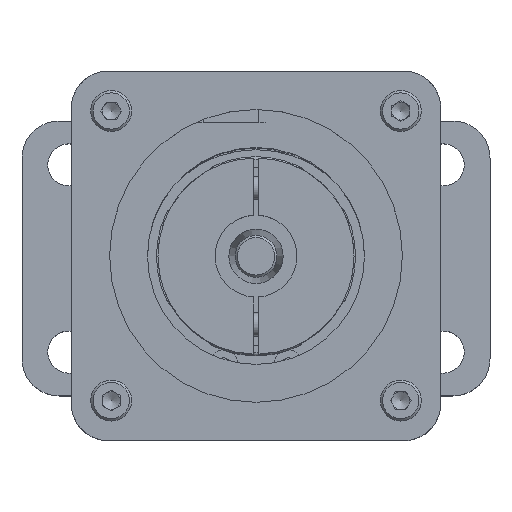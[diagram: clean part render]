
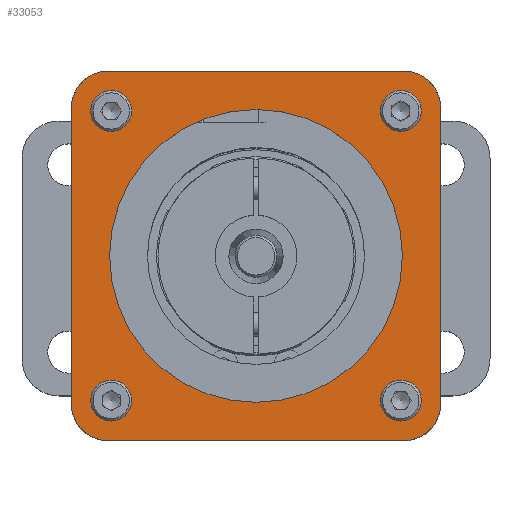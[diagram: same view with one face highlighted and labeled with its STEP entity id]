
A CAD part, top view. The second image highlights one B-rep face of the part: STEP entity #33053.
In plain terms, the highlighted planar face has unit normal (0, 0, 1).
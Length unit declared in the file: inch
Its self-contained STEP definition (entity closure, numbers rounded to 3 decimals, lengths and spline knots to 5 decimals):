
#221 = CARTESIAN_POINT ( 'NONE',  ( -1.2436, -0.9936, 3.7111 ) ) ;
#676 = CARTESIAN_POINT ( 'NONE',  ( 1.05311, 0.97436, 3.7111 ) ) ;
#717 = CARTESIAN_POINT ( 'NONE',  ( -0.97436, 1.05311, 3.7111 ) ) ;
#1033 = CARTESIAN_POINT ( 'NONE',  ( -1.77594, 1.6875, 3.7111 ) ) ;
#1295 = CIRCLE ( 'NONE', #4248, 0.25 ) ;
#1721 = AXIS2_PLACEMENT_3D ( 'NONE', #35176, #24719, #24535 ) ;
#1938 = VERTEX_POINT ( 'NONE', #23605 ) ;
#2078 = EDGE_CURVE ( 'NONE', #7962, #17420, #33291, .T. ) ;
#2107 = EDGE_CURVE ( 'NONE', #34310, #34310, #31661, .T. ) ;
#2317 = VERTEX_POINT ( 'NONE', #35211 ) ;
#2805 = DIRECTION ( 'NONE',  ( -1., 0., 0. ) ) ;
#2841 = DIRECTION ( 'NONE',  ( 1., 0., 0. ) ) ;
#3754 = CARTESIAN_POINT ( 'NONE',  ( -1.05311, -0.97436, 3.7111 ) ) ;
#3872 = CARTESIAN_POINT ( 'NONE',  ( 1.2436, -0.9936, 3.7111 ) ) ;
#3905 = VERTEX_POINT ( 'NONE', #6351 ) ;
#4248 = AXIS2_PLACEMENT_3D ( 'NONE', #34615, #25646, #23082 ) ;
#4623 = AXIS2_PLACEMENT_3D ( 'NONE', #4865, #18648, #16252 ) ;
#4865 = CARTESIAN_POINT ( 'NONE',  ( 0.97436, 0.97436, 3.7111 ) ) ;
#4960 = LINE ( 'NONE', #13962, #6256 ) ;
#5169 = DIRECTION ( 'NONE',  ( 1., 0., 0. ) ) ;
#5666 = VERTEX_POINT ( 'NONE', #221 ) ;
#5870 = AXIS2_PLACEMENT_3D ( 'NONE', #22490, #30380, #33653 ) ;
#5966 = DIRECTION ( 'NONE',  ( 0., 0., 1. ) ) ;
#6174 = AXIS2_PLACEMENT_3D ( 'NONE', #1033, #34449, #32258 ) ;
#6190 = EDGE_LOOP ( 'NONE', ( #26926 ) ) ;
#6256 = VECTOR ( 'NONE', #16358, 39.37008 ) ;
#6351 = CARTESIAN_POINT ( 'NONE',  ( -0.9936, -1.2436, 3.7111 ) ) ;
#6809 = CIRCLE ( 'NONE', #27359, 0.07875 ) ;
#7021 = AXIS2_PLACEMENT_3D ( 'NONE', #17490, #28675, #14749 ) ;
#7055 = AXIS2_PLACEMENT_3D ( 'NONE', #20487, #5966, #2841 ) ;
#7831 = EDGE_LOOP ( 'NONE', ( #20893 ) ) ;
#7962 = VERTEX_POINT ( 'NONE', #35615 ) ;
#8152 = VERTEX_POINT ( 'NONE', #3872 ) ;
#9587 = ORIENTED_EDGE ( 'NONE', *, *, #33231, .F. ) ;
#9852 = VECTOR ( 'NONE', #35494, 39.37008 ) ;
#9858 = DIRECTION ( 'NONE',  ( 0., 1., 0. ) ) ;
#9969 = CARTESIAN_POINT ( 'NONE',  ( 0.98525, 0., 3.7111 ) ) ;
#10395 = ORIENTED_EDGE ( 'NONE', *, *, #27104, .F. ) ;
#10417 = EDGE_CURVE ( 'NONE', #28594, #28594, #23980, .T. ) ;
#10609 = CARTESIAN_POINT ( 'NONE',  ( -0.9936, -0.9936, 3.7111 ) ) ;
#11301 = EDGE_CURVE ( 'NONE', #8152, #35950, #35559, .T. ) ;
#12571 = ORIENTED_EDGE ( 'NONE', *, *, #19632, .T. ) ;
#13204 = CARTESIAN_POINT ( 'NONE',  ( -0.97436, -0.97436, 3.7111 ) ) ;
#13335 = VERTEX_POINT ( 'NONE', #21335 ) ;
#13962 = CARTESIAN_POINT ( 'NONE',  ( -1.2436, 0.9936, 3.7111 ) ) ;
#14749 = DIRECTION ( 'NONE',  ( 1., 0., 0. ) ) ;
#14852 = FACE_OUTER_BOUND ( 'NONE', #18954, .T. ) ;
#14992 = CIRCLE ( 'NONE', #24956, 0.25 ) ;
#15864 = CARTESIAN_POINT ( 'NONE',  ( 0., 0., 3.7111 ) ) ;
#16252 = DIRECTION ( 'NONE',  ( 1., 0., 0. ) ) ;
#16358 = DIRECTION ( 'NONE',  ( 0., -1., 0. ) ) ;
#16439 = CARTESIAN_POINT ( 'NONE',  ( 1.2436, 0.9936, 3.7111 ) ) ;
#17420 = VERTEX_POINT ( 'NONE', #29155 ) ;
#17490 = CARTESIAN_POINT ( 'NONE',  ( -0.9936, 0.9936, 3.7111 ) ) ;
#18208 = CIRCLE ( 'NONE', #7055, 0.25 ) ;
#18648 = DIRECTION ( 'NONE',  ( 0., 0., 1. ) ) ;
#18788 = VECTOR ( 'NONE', #2805, 39.37008 ) ;
#18954 = EDGE_LOOP ( 'NONE', ( #20700, #29648, #28928, #30529, #36252, #12571, #35683, #19259 ) ) ;
#19259 = ORIENTED_EDGE ( 'NONE', *, *, #35720, .T. ) ;
#19632 = EDGE_CURVE ( 'NONE', #1938, #8152, #1295, .T. ) ;
#20028 = EDGE_CURVE ( 'NONE', #32162, #32162, #35351, .T. ) ;
#20487 = CARTESIAN_POINT ( 'NONE',  ( 0.9936, 0.9936, 3.7111 ) ) ;
#20700 = ORIENTED_EDGE ( 'NONE', *, *, #2078, .T. ) ;
#20893 = ORIENTED_EDGE ( 'NONE', *, *, #2107, .F. ) ;
#21095 = FACE_BOUND ( 'NONE', #6190, .T. ) ;
#21335 = CARTESIAN_POINT ( 'NONE',  ( -1.2436, 0.9936, 3.7111 ) ) ;
#21384 = LINE ( 'NONE', #24134, #9852 ) ;
#21927 = DIRECTION ( 'NONE',  ( 0., 0., 1. ) ) ;
#22107 = EDGE_CURVE ( 'NONE', #3905, #1938, #21384, .T. ) ;
#22490 = CARTESIAN_POINT ( 'NONE',  ( -0.97436, 0.97436, 3.7111 ) ) ;
#23082 = DIRECTION ( 'NONE',  ( 1., 0., 0. ) ) ;
#23279 = FACE_BOUND ( 'NONE', #7831, .T. ) ;
#23605 = CARTESIAN_POINT ( 'NONE',  ( 0.9936, -1.2436, 3.7111 ) ) ;
#23829 = FACE_BOUND ( 'NONE', #28240, .T. ) ;
#23980 = CIRCLE ( 'NONE', #4623, 0.07875 ) ;
#24134 = CARTESIAN_POINT ( 'NONE',  ( -0.9936, -1.2436, 3.7111 ) ) ;
#24208 = DIRECTION ( 'NONE',  ( 0., 0., 1. ) ) ;
#24391 = DIRECTION ( 'NONE',  ( 0., 0., 1. ) ) ;
#24535 = DIRECTION ( 'NONE',  ( 0., -1., 0. ) ) ;
#24719 = DIRECTION ( 'NONE',  ( 0., 0., 1. ) ) ;
#24956 = AXIS2_PLACEMENT_3D ( 'NONE', #10609, #24208, #26767 ) ;
#25646 = DIRECTION ( 'NONE',  ( 0., 0., 1. ) ) ;
#26767 = DIRECTION ( 'NONE',  ( 1., 0., 0. ) ) ;
#26926 = ORIENTED_EDGE ( 'NONE', *, *, #20028, .F. ) ;
#27104 = EDGE_CURVE ( 'NONE', #2317, #2317, #36315, .T. ) ;
#27309 = CARTESIAN_POINT ( 'NONE',  ( 1.2436, 0.9936, 3.7111 ) ) ;
#27359 = AXIS2_PLACEMENT_3D ( 'NONE', #13204, #24391, #32444 ) ;
#27562 = ORIENTED_EDGE ( 'NONE', *, *, #10417, .F. ) ;
#27586 = VECTOR ( 'NONE', #9858, 39.37008 ) ;
#27879 = EDGE_CURVE ( 'NONE', #13335, #5666, #4960, .T. ) ;
#28127 = CIRCLE ( 'NONE', #7021, 0.25 ) ;
#28240 = EDGE_LOOP ( 'NONE', ( #9587 ) ) ;
#28594 = VERTEX_POINT ( 'NONE', #676 ) ;
#28675 = DIRECTION ( 'NONE',  ( 0., 0., 1. ) ) ;
#28928 = ORIENTED_EDGE ( 'NONE', *, *, #27879, .T. ) ;
#29155 = CARTESIAN_POINT ( 'NONE',  ( -0.9936, 1.2436, 3.7111 ) ) ;
#29648 = ORIENTED_EDGE ( 'NONE', *, *, #35051, .T. ) ;
#30080 = AXIS2_PLACEMENT_3D ( 'NONE', #15864, #21927, #5169 ) ;
#30202 = CARTESIAN_POINT ( 'NONE',  ( -0.9936, 1.2436, 3.7111 ) ) ;
#30380 = DIRECTION ( 'NONE',  ( 0., 0., 1. ) ) ;
#30529 = ORIENTED_EDGE ( 'NONE', *, *, #32072, .T. ) ;
#31661 = CIRCLE ( 'NONE', #5870, 0.07875 ) ;
#31711 = FACE_BOUND ( 'NONE', #33538, .T. ) ;
#31892 = PLANE ( 'NONE',  #6174 ) ;
#32072 = EDGE_CURVE ( 'NONE', #5666, #3905, #14992, .T. ) ;
#32162 = VERTEX_POINT ( 'NONE', #9969 ) ;
#32258 = DIRECTION ( 'NONE',  ( 1., 0., 0. ) ) ;
#32343 = EDGE_LOOP ( 'NONE', ( #10395 ) ) ;
#32444 = DIRECTION ( 'NONE',  ( -1., 0., 0. ) ) ;
#33053 = ADVANCED_FACE ( 'NONE', ( #35012, #23829, #23279, #31711, #21095, #14852 ), #31892, .T. ) ;
#33231 = EDGE_CURVE ( 'NONE', #34786, #34786, #6809, .T. ) ;
#33291 = LINE ( 'NONE', #30202, #18788 ) ;
#33538 = EDGE_LOOP ( 'NONE', ( #27562 ) ) ;
#33653 = DIRECTION ( 'NONE',  ( 0., 1., 0. ) ) ;
#34310 = VERTEX_POINT ( 'NONE', #717 ) ;
#34449 = DIRECTION ( 'NONE',  ( 0., 0., 1. ) ) ;
#34615 = CARTESIAN_POINT ( 'NONE',  ( 0.9936, -0.9936, 3.7111 ) ) ;
#34786 = VERTEX_POINT ( 'NONE', #3754 ) ;
#35012 = FACE_BOUND ( 'NONE', #32343, .T. ) ;
#35051 = EDGE_CURVE ( 'NONE', #17420, #13335, #28127, .T. ) ;
#35176 = CARTESIAN_POINT ( 'NONE',  ( 0.97436, -0.97436, 3.7111 ) ) ;
#35211 = CARTESIAN_POINT ( 'NONE',  ( 0.97436, -1.05311, 3.7111 ) ) ;
#35351 = CIRCLE ( 'NONE', #30080, 0.98525 ) ;
#35494 = DIRECTION ( 'NONE',  ( 1., 0., 0. ) ) ;
#35559 = LINE ( 'NONE', #27309, #27586 ) ;
#35615 = CARTESIAN_POINT ( 'NONE',  ( 0.9936, 1.2436, 3.7111 ) ) ;
#35683 = ORIENTED_EDGE ( 'NONE', *, *, #11301, .T. ) ;
#35720 = EDGE_CURVE ( 'NONE', #35950, #7962, #18208, .T. ) ;
#35950 = VERTEX_POINT ( 'NONE', #16439 ) ;
#36252 = ORIENTED_EDGE ( 'NONE', *, *, #22107, .T. ) ;
#36315 = CIRCLE ( 'NONE', #1721, 0.07875 ) ;
